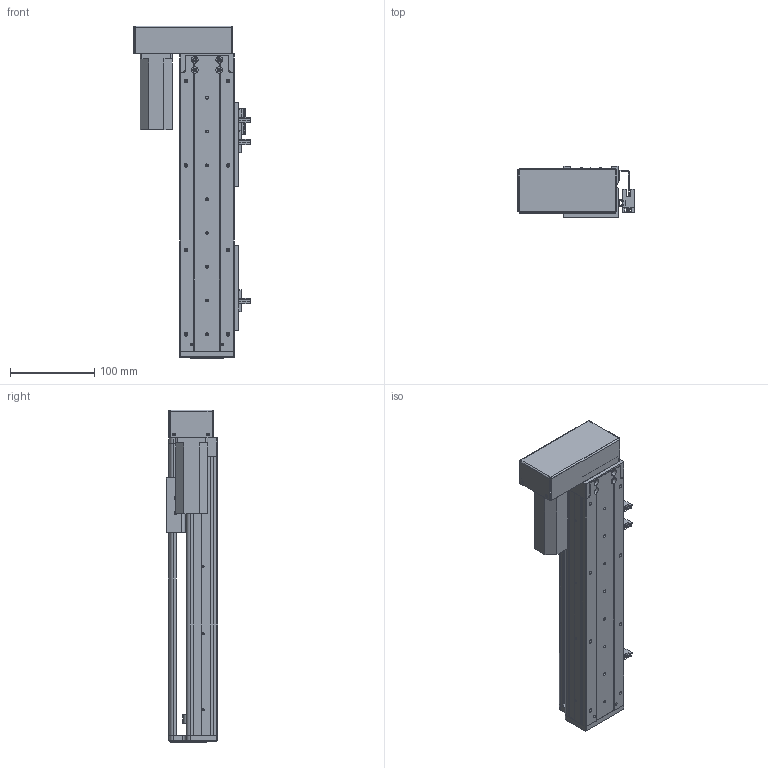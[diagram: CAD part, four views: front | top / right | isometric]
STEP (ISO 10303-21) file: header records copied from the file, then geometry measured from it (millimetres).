
FILE_DESCRIPTION (( 'STEP AP203' ), '1' );
FILE_NAME ('RY60-L1210-300-LK.SLDASM_200.step', '2021-02-20T06:53:50', ( '盈信电脑' ), ( '东莞市道滘镇水果街19号' ), 'SwSTEP 2.0', 'SolidWorks 2012', '' );
FILE_SCHEMA (( 'CONFIG_CONTROL_DESIGN' ));
Length unit declared in the file: millimetre
Products named in the file (14): RY60酘衵殏萇儂欶; RY60-L1210-300-LK.SLDASM_200; 滅袉蝶18-10; RY60左右折电机安装板-PCD46-M4; RY60转折电机端支撑座; 侂狟100W; RY80俋离覜茼え; 672嫖萇羲壽假蚾釱; 覜茼ん672; RY60綴裔啣; RY60臏賑輸; RY60-300倰第裔啣-LK_200; RY60-300-MGW12絳寢-LK_200; RY60-300倰第菁釱-LK_200
Assembly tree (19 placements, depth 2):
  RY60-L1210-300-LK.SLDASM_200
    RY60-300倰第菁釱-LK_200
    RY60-300-MGW12絳寢-LK_200
    RY60臏賑輸
    RY60-300倰第裔啣-LK_200
    672嫖萇羲壽假蚾釱  x2
    RY60綴裔啣
    覜茼ん672  x3
    RY80俋离覜茼え
    滅袉蝶18-10  x4
    RY60转折电机端支撑座
    RY60左右折电机安装板-PCD46-M4
    侂狟100W
    RY60酘衵殏萇儂欶
Bounding box: 137.9 x 61 x 393 mm (x, y, z)
Volume: 689842.4 mm3; surface area: 328391.3 mm2
Topology: 19 solids, 19 shells, 1421 faces, 3926 edges, 2518 vertices
Faces by surface type: plane 710, cylinder 592, cone 102, bspline 17
Entity records: 41712 total; most frequent: CARTESIAN_POINT 9471, ORIENTED_EDGE 6432, DIRECTION 6320, EDGE_CURVE 3216, AXIS2_PLACEMENT_3D 2177, VERTEX_POINT 2098, VECTOR 1966, LINE 1966
